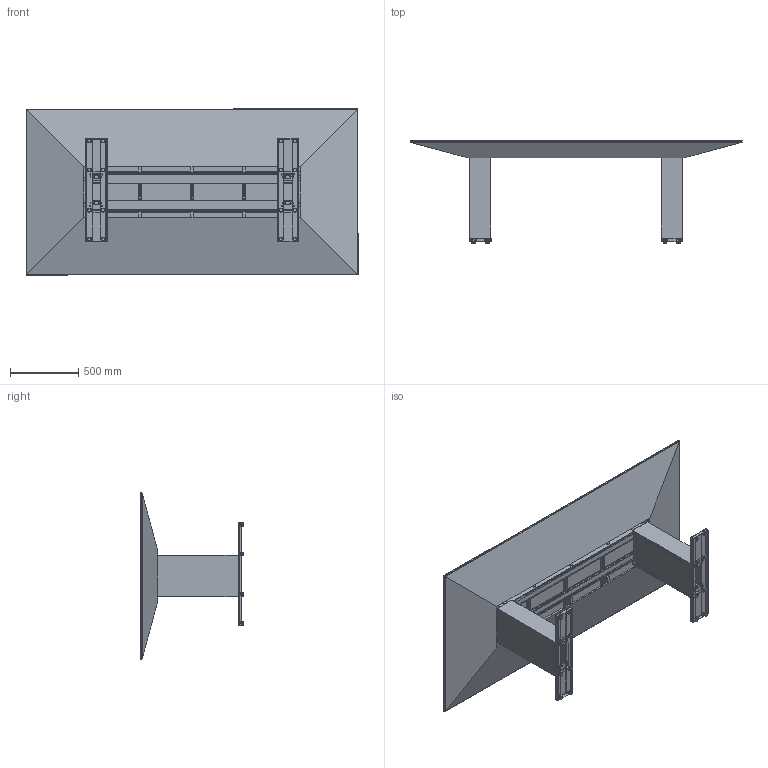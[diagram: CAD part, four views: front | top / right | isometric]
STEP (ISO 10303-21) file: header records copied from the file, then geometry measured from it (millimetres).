
FILE_DESCRIPTION(/* description */ ('','CAx-IF Rec.Pracs.---Representation and Presentation of Product Manufacturing Information (PMI)---4.0---2014-10-13'),/* implementation_level */ '2;1');
FILE_NAME(/* name */ 'AERO^TA3.stp',/* time_stamp */ '2024-12-05T17:17:18-05:00',/* author */ ('mbowman'),/* organization */ (''),/* preprocessor_version */ 'ST-DEVELOPER v19.2',/* originating_system */ 'Autodesk Inventor 2023',/* authorisation */ '');
FILE_SCHEMA (('AP242_MANAGED_MODEL_BASED_3D_ENGINEERING_MIM_LF { 1 0 10303 442 1 1 4 }'));
Length unit declared in the file: inch
Products named in the file (33): AERO^TABLE 3_ATS2S-4896-REV2-NOPOWER01; AERO^TABLE 3_8TS2R0SG-48144-WKSF - LFT03; AERO^TABLE 3_8TS2R0SG-48144-WKSF PNL - LFT37; AERO^TABLE 3__AMC-611V-109; H-QFTC624U-1; H-QTFC634^FRAME; H-QTFC624^TOP^26613; H-QTFC624-NEW^BTM; AERO^TABLE 3_QDESIGN-BASE-VER01-BCK PNL26; QDESIGN-BASE-VER01-DOOR; QDESIGN-BASE-VER01-DOOR PNL; Z-CLIP 25in THK - (HL-131); H-BRUSH480SD; H-BRUSH1.60D-10.37; H-BRUSH1.60D^Sealeze brush 2in-10.37; H-BRUSH1.60D^Sealeze Brush Strip-edge-10.37; AERO^TABLE 3__AMC-611^DOOR PNL STOP27; AERO^TABLE 3_QDESIGN-BASE-VER01-END PNL - LFT28; AERO^TABLE 3_x-CONF-4872-CANTLIVER SLD 02-8888807; CANTLIVER - (H-QECB); AERO^TABLE 3_8TS2R0SG-48144-WKSF PNL - LFT - SHRD BCK05; AERO^TABLE 3_8TS2R0SG-48144-WKSF PNL - LFT - SHRD END04; H-QTRGE-60; AERO^TABLE 3_ATS2S-4896-REV2^TROUGH CLEAT BLK10; AERO^TABLE 3_30 table base-REV208; AERO^TABLE 3_H-QCTB30-SS15; AERO^TABLE 3_H-QFTB3014; AERO^TABLE 3__AMC-630-AL^BASE FRAME19; AERO^TABLE 3__AMC-630-AL^BASE FRAME PLT18; AERO^TABLE 3__AMC-630-AL^BASE FRAME 0217; H-COD-GLIDE2; CANTILEVER - (H-QMCB-1); AERO^TABLE 3_x-CONF-4872-CANTLIVER SLD-8888806
Assembly tree (71 placements, depth 4):
  AERO^TABLE 3_ATS2S-4896-REV2-NOPOWER01
    AERO^TABLE 3_8TS2R0SG-48144-WKSF - LFT03
      AERO^TABLE 3_8TS2R0SG-48144-WKSF PNL - LFT37
    AERO^TABLE 3__AMC-611V-109  x2
      H-QFTC624U-1
        H-QTFC634^FRAME
        H-QTFC624^TOP^26613
        H-QTFC624-NEW^BTM
      AERO^TABLE 3_QDESIGN-BASE-VER01-END PNL - LFT28
      AERO^TABLE 3_QDESIGN-BASE-VER01-BCK PNL26
      QDESIGN-BASE-VER01-DOOR
        QDESIGN-BASE-VER01-DOOR PNL
      Z-CLIP 25in THK - (HL-131)
      H-BRUSH480SD
      H-BRUSH1.60D-10.37
        H-BRUSH1.60D^Sealeze brush 2in-10.37
        H-BRUSH1.60D^Sealeze Brush Strip-edge-10.37
      AERO^TABLE 3__AMC-611^DOOR PNL STOP27
    AERO^TABLE 3_8TS2R0SG-48144-WKSF PNL - LFT - SHRD END04  x2
    AERO^TABLE 3_8TS2R0SG-48144-WKSF PNL - LFT - SHRD BCK05  x2
    AERO^TABLE 3_x-CONF-4872-CANTLIVER SLD 02-8888807  x4
    AERO^TABLE 3_x-CONF-4872-CANTLIVER SLD-8888806  x10
    CANTLIVER - (H-QECB)  x2
    CANTILEVER - (H-QMCB-1)  x3
    H-QTRGE-60  x2
    AERO^TABLE 3_ATS2S-4896-REV2^TROUGH CLEAT BLK10  x2
    AERO^TABLE 3_30 table base-REV208  x2
      AERO^TABLE 3_H-QCTB30-SS15
      AERO^TABLE 3_H-QFTB3014
        AERO^TABLE 3__AMC-630-AL^BASE FRAME19  x2
        AERO^TABLE 3__AMC-630-AL^BASE FRAME 0217  x8
        AERO^TABLE 3__AMC-630-AL^BASE FRAME PLT18  x2
      H-COD-GLIDE2
Bounding box: 2438.4 x 755.65 x 1219.2 mm (x, y, z)
Volume: 143597543.1 mm3; surface area: 19355746.8 mm2
Topology: 124 solids, 124 shells, 1812 faces, 4451 edges, 2902 vertices
Faces by surface type: plane 1185, cylinder 487, cone 92, torus 32, sphere 16
Full cylindrical faces by diameter (mm): 3.175 x2, 3.81 x84, 4.762 x45, 4.978 x16, 5.105 x18, 6.35 x16, 7.144 x16, 7.938 x84, 12.7 x18, 28.575 x16
Entity records: 25450 total; most frequent: CARTESIAN_POINT 4879, DIRECTION 3867, ORIENTED_EDGE 3238, EDGE_CURVE 1619, AXIS2_PLACEMENT_3D 1336, LINE 1195, VECTOR 1195, VERTEX_POINT 1054
